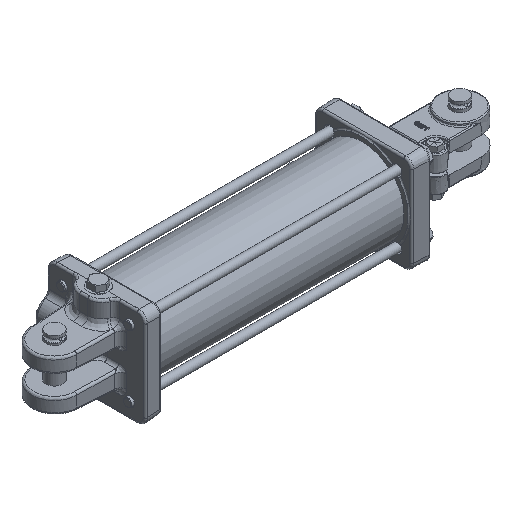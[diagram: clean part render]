
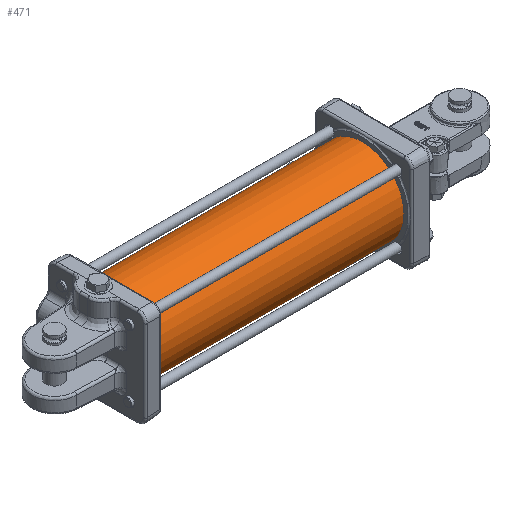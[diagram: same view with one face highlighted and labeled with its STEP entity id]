
A CAD part, isometric view. The second image highlights one B-rep face of the part: STEP entity #471.
In plain terms, the highlighted cylindrical face has radius 63.5 mm (diameter 127 mm), a full revolution.
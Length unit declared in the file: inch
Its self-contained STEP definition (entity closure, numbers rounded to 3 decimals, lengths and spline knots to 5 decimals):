
#210=CARTESIAN_POINT('',(-1.029,2.49941,0.0545));
#211=VERTEX_POINT('',#210);
#212=CARTESIAN_POINT('',(-1.029,2.49941,0.0545));
#213=CARTESIAN_POINT('',(-1.03584,2.49941,0.0545));
#214=CARTESIAN_POINT('',(-1.04314,2.49944,0.05313));
#215=CARTESIAN_POINT('',(-1.05657,2.49955,0.04757));
#216=CARTESIAN_POINT('',(-1.0627,2.49963,0.04338));
#217=CARTESIAN_POINT('',(-1.07238,2.49978,0.0337));
#218=CARTESIAN_POINT('',(-1.07657,2.49986,0.02757));
#219=CARTESIAN_POINT('',(-1.08213,2.49997,0.01414));
#220=CARTESIAN_POINT('',(-1.0835,2.5,0.00684));
#221=CARTESIAN_POINT('',(-1.0835,2.5,-0.00684));
#222=CARTESIAN_POINT('',(-1.08213,2.49997,-0.01414));
#223=CARTESIAN_POINT('',(-1.07657,2.49986,-0.02757));
#224=CARTESIAN_POINT('',(-1.07238,2.49978,-0.0337));
#225=CARTESIAN_POINT('',(-1.0627,2.49963,-0.04338));
#226=CARTESIAN_POINT('',(-1.05657,2.49955,-0.04757));
#227=CARTESIAN_POINT('',(-1.04314,2.49944,-0.05313));
#228=CARTESIAN_POINT('',(-1.03584,2.49941,-0.0545));
#229=CARTESIAN_POINT('',(-1.02216,2.49941,-0.0545));
#230=CARTESIAN_POINT('',(-1.01486,2.49944,-0.05313));
#231=CARTESIAN_POINT('',(-1.00143,2.49955,-0.04757));
#232=CARTESIAN_POINT('',(-0.9953,2.49963,-0.04338));
#233=CARTESIAN_POINT('',(-0.98562,2.49978,-0.0337));
#234=CARTESIAN_POINT('',(-0.98143,2.49986,-0.02757));
#235=CARTESIAN_POINT('',(-0.97587,2.49997,-0.01414));
#236=CARTESIAN_POINT('',(-0.9745,2.5,-0.00684));
#237=CARTESIAN_POINT('',(-0.9745,2.5,0.00684));
#238=CARTESIAN_POINT('',(-0.97587,2.49997,0.01414));
#239=CARTESIAN_POINT('',(-0.98143,2.49986,0.02757));
#240=CARTESIAN_POINT('',(-0.98562,2.49978,0.0337));
#241=CARTESIAN_POINT('',(-0.9953,2.49963,0.04338));
#242=CARTESIAN_POINT('',(-1.00143,2.49955,0.04757));
#243=CARTESIAN_POINT('',(-1.01486,2.49944,0.05313));
#244=CARTESIAN_POINT('',(-1.02216,2.49941,0.0545));
#245=CARTESIAN_POINT('',(-1.029,2.49941,0.0545));
#246=B_SPLINE_CURVE_WITH_KNOTS('',3,(#212,#213,#214,#215,#216,#217,#218,#219,#220,#221,#222,#223,#224,#225,#226,#227,#228,#229,#230,#231,#232,#233,#234,#235,#236,#237,#238,#239,#240,#241,#242,#243,#244,#245),.UNSPECIFIED.,.T.,.U.,(4,2,2,2,2,2,2,2,2,2,2,2,2,2,2,2,4),(0.0,0.05215,0.10429,0.15644,0.20859,0.26073,0.31288,0.36503,0.41717,0.46932,0.52147,0.57361,0.62576,0.6779,0.73005,0.7822,0.83434),.UNSPECIFIED.);
#247=EDGE_CURVE('',#211,#211,#246,.T.);
#298=CARTESIAN_POINT('',(-1.409,2.49981,0.031));
#299=VERTEX_POINT('',#298);
#300=CARTESIAN_POINT('',(-1.409,2.49981,0.031));
#301=CARTESIAN_POINT('',(-1.41289,2.49981,0.031));
#302=CARTESIAN_POINT('',(-1.41704,2.49982,0.03022));
#303=CARTESIAN_POINT('',(-1.42468,2.49985,0.02706));
#304=CARTESIAN_POINT('',(-1.42817,2.49988,0.02467));
#305=CARTESIAN_POINT('',(-1.43367,2.49993,0.01917));
#306=CARTESIAN_POINT('',(-1.43606,2.49995,0.01568));
#307=CARTESIAN_POINT('',(-1.43922,2.49999,0.00804));
#308=CARTESIAN_POINT('',(-1.44,2.5,0.00389));
#309=CARTESIAN_POINT('',(-1.44,2.5,-0.00389));
#310=CARTESIAN_POINT('',(-1.43922,2.49999,-0.00804));
#311=CARTESIAN_POINT('',(-1.43606,2.49995,-0.01568));
#312=CARTESIAN_POINT('',(-1.43367,2.49993,-0.01917));
#313=CARTESIAN_POINT('',(-1.42817,2.49988,-0.02467));
#314=CARTESIAN_POINT('',(-1.42468,2.49985,-0.02706));
#315=CARTESIAN_POINT('',(-1.41704,2.49982,-0.03022));
#316=CARTESIAN_POINT('',(-1.41289,2.49981,-0.031));
#317=CARTESIAN_POINT('',(-1.40511,2.49981,-0.031));
#318=CARTESIAN_POINT('',(-1.40096,2.49982,-0.03022));
#319=CARTESIAN_POINT('',(-1.39332,2.49985,-0.02706));
#320=CARTESIAN_POINT('',(-1.38983,2.49988,-0.02467));
#321=CARTESIAN_POINT('',(-1.38433,2.49993,-0.01917));
#322=CARTESIAN_POINT('',(-1.38194,2.49995,-0.01568));
#323=CARTESIAN_POINT('',(-1.37878,2.49999,-0.00804));
#324=CARTESIAN_POINT('',(-1.378,2.5,-0.00389));
#325=CARTESIAN_POINT('',(-1.378,2.5,0.00389));
#326=CARTESIAN_POINT('',(-1.37878,2.49999,0.00804));
#327=CARTESIAN_POINT('',(-1.38194,2.49995,0.01568));
#328=CARTESIAN_POINT('',(-1.38433,2.49993,0.01917));
#329=CARTESIAN_POINT('',(-1.38983,2.49988,0.02467));
#330=CARTESIAN_POINT('',(-1.39332,2.49985,0.02706));
#331=CARTESIAN_POINT('',(-1.40096,2.49982,0.03022));
#332=CARTESIAN_POINT('',(-1.40511,2.49981,0.031));
#333=CARTESIAN_POINT('',(-1.409,2.49981,0.031));
#334=B_SPLINE_CURVE_WITH_KNOTS('',3,(#300,#301,#302,#303,#304,#305,#306,#307,#308,#309,#310,#311,#312,#313,#314,#315,#316,#317,#318,#319,#320,#321,#322,#323,#324,#325,#326,#327,#328,#329,#330,#331,#332,#333),.UNSPECIFIED.,.T.,.U.,(4,2,2,2,2,2,2,2,2,2,2,2,2,2,2,2,4),(0.0,0.02966,0.05932,0.08898,0.11864,0.1483,0.17796,0.20762,0.23729,0.26695,0.29661,0.32627,0.35593,0.38559,0.41525,0.44491,0.47457),.UNSPECIFIED.);
#335=EDGE_CURVE('',#299,#299,#334,.T.);
#345=CARTESIAN_POINT('',(0.,2.5,0.0));
#346=VERTEX_POINT('',#345);
#347=CARTESIAN_POINT('',(0.,0.0,0.0));
#348=DIRECTION('',(1.0,0.0,0.0));
#349=DIRECTION('',(0.0,1.0,0.0));
#350=AXIS2_PLACEMENT_3D('',#347,#348,#349);
#351=CIRCLE('',#350,2.5);
#352=EDGE_CURVE('',#346,#346,#351,.T.);
#439=CARTESIAN_POINT('',(-14.84375,2.5,0.0));
#440=VERTEX_POINT('',#439);
#441=CARTESIAN_POINT('',(-14.84375,0.0,0.0));
#442=DIRECTION('',(1.0,0.0,0.0));
#443=DIRECTION('',(0.0,1.0,0.0));
#444=AXIS2_PLACEMENT_3D('',#441,#442,#443);
#445=CIRCLE('',#444,2.5);
#446=EDGE_CURVE('',#440,#440,#445,.T.);
#454=CARTESIAN_POINT('',(-7.42188,0.0,0.0));
#455=DIRECTION('',(1.0,0.0,0.0));
#456=DIRECTION('',(0.0,1.0,0.0));
#457=AXIS2_PLACEMENT_3D('',#454,#455,#456);
#458=CYLINDRICAL_SURFACE('',#457,2.5);
#459=ORIENTED_EDGE('',*,*,#352,.F.);
#460=EDGE_LOOP('',(#459));
#461=FACE_OUTER_BOUND('',#460,.T.);
#462=ORIENTED_EDGE('',*,*,#247,.T.);
#463=EDGE_LOOP('',(#462));
#464=FACE_BOUND('',#463,.T.);
#465=ORIENTED_EDGE('',*,*,#335,.T.);
#466=EDGE_LOOP('',(#465));
#467=FACE_BOUND('',#466,.T.);
#468=ORIENTED_EDGE('',*,*,#446,.T.);
#469=EDGE_LOOP('',(#468));
#470=FACE_BOUND('',#469,.T.);
#471=ADVANCED_FACE('',(#461,#464,#467,#470),#458,.T.);
